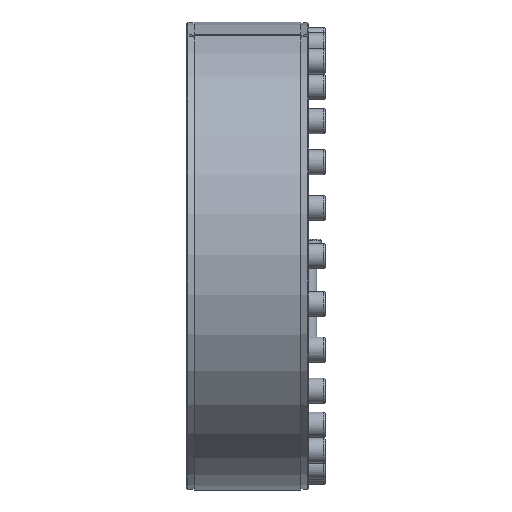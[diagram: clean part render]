
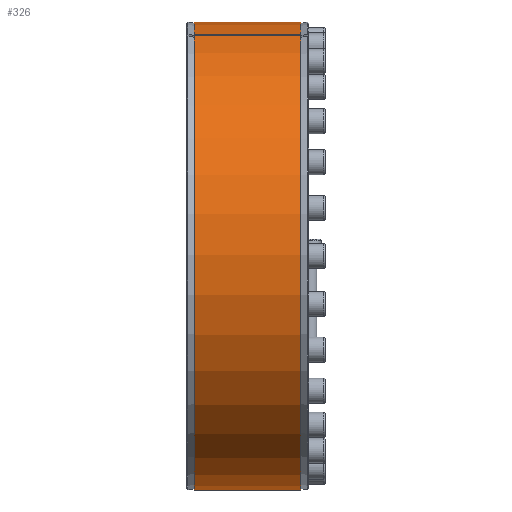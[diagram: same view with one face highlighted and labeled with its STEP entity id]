
A CAD part, left-side view. The second image highlights one B-rep face of the part: STEP entity #326.
In plain terms, the highlighted cylindrical face has radius 307.5 mm (diameter 615 mm), a partial arc.
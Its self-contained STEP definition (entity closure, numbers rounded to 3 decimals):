
#326 = ADVANCED_FACE( '', ( #839 ), #840, .T. );
#839 = FACE_OUTER_BOUND( '', #1491, .T. );
#840 = CYLINDRICAL_SURFACE( '', #1492, 307.5 );
#1491 = EDGE_LOOP( '', ( #2448, #2449, #2450, #2451 ) );
#1492 = AXIS2_PLACEMENT_3D( '', #2452, #2453, #2454 );
#2448 = ORIENTED_EDGE( '', *, *, #2759, .T. );
#2449 = ORIENTED_EDGE( '', *, *, #3025, .T. );
#2450 = ORIENTED_EDGE( '', *, *, #3052, .F. );
#2451 = ORIENTED_EDGE( '', *, *, #2912, .T. );
#2452 = CARTESIAN_POINT( '', ( 0., -60., 0. ) );
#2453 = DIRECTION( '', ( 0., 1., 0. ) );
#2454 = DIRECTION( '', ( 0., 0., -1. ) );
#2759 = EDGE_CURVE( '', #3177, #3175, #3178, .T. );
#2912 = EDGE_CURVE( '', #3446, #3177, #3447, .F. );
#3025 = EDGE_CURVE( '', #3175, #3622, #3624, .T. );
#3052 = EDGE_CURVE( '', #3446, #3622, #3661, .T. );
#3175 = VERTEX_POINT( '', #3886 );
#3177 = VERTEX_POINT( '', #3889 );
#3178 = CIRCLE( '', #3890, 307.5 );
#3446 = VERTEX_POINT( '', #4203 );
#3447 = LINE( '', #4204, #4205 );
#3622 = VERTEX_POINT( '', #4420 );
#3624 = LINE( '', #4423, #4424 );
#3661 = CIRCLE( '', #4468, 307.5 );
#3886 = CARTESIAN_POINT( '', ( -98.251, 150., 291.381 ) );
#3889 = CARTESIAN_POINT( '', ( -104.858, 150., 289.069 ) );
#3890 = AXIS2_PLACEMENT_3D( '', #4585, #4586, #4587 );
#4203 = CARTESIAN_POINT( '', ( -104.858, 10., 289.069 ) );
#4204 = CARTESIAN_POINT( '', ( -104.858, -60., 289.069 ) );
#4205 = VECTOR( '', #4894, 1000. );
#4420 = CARTESIAN_POINT( '', ( -98.251, 10., 291.381 ) );
#4423 = CARTESIAN_POINT( '', ( -98.251, -60., 291.381 ) );
#4424 = VECTOR( '', #5071, 1000. );
#4468 = AXIS2_PLACEMENT_3D( '', #5103, #5104, #5105 );
#4585 = CARTESIAN_POINT( '', ( 0., 150., 0. ) );
#4586 = DIRECTION( '', ( 0., -1., 0. ) );
#4587 = DIRECTION( '', ( 0., 0., -1. ) );
#4894 = DIRECTION( '', ( 0., -1., 0. ) );
#5071 = DIRECTION( '', ( 0., -1., 0. ) );
#5103 = CARTESIAN_POINT( '', ( 0., 10., 0. ) );
#5104 = DIRECTION( '', ( 0., -1., 0. ) );
#5105 = DIRECTION( '', ( 0., 0., -1. ) );
